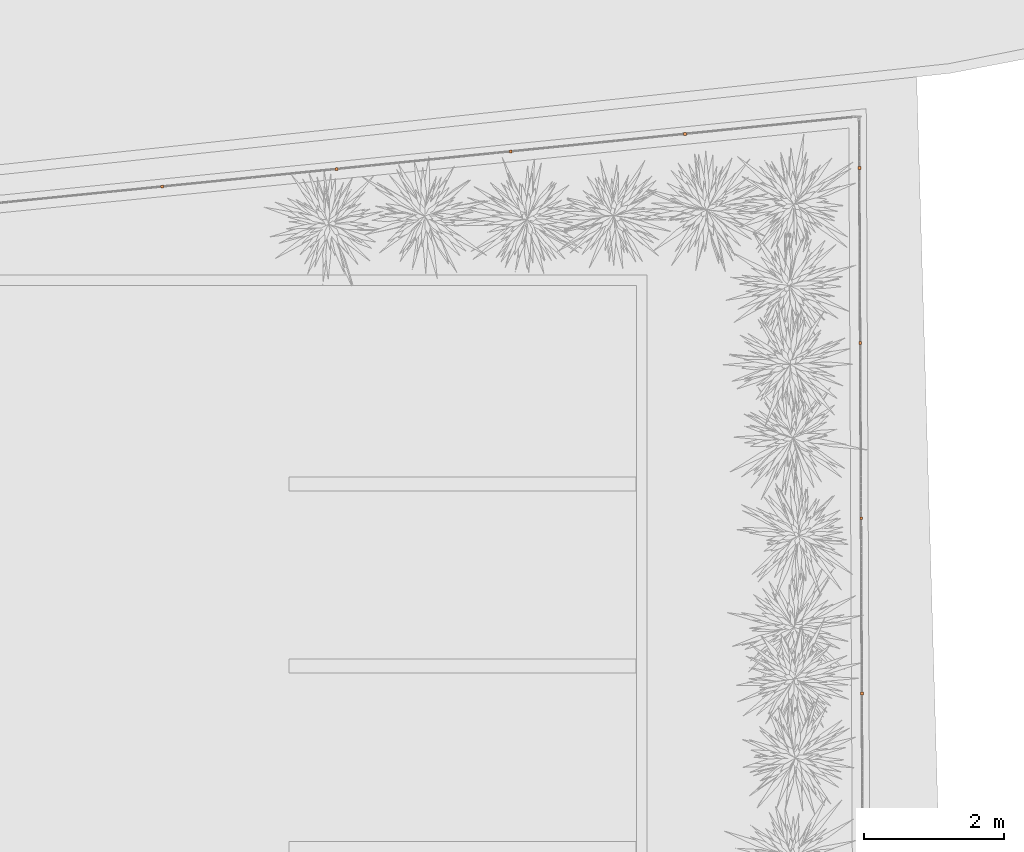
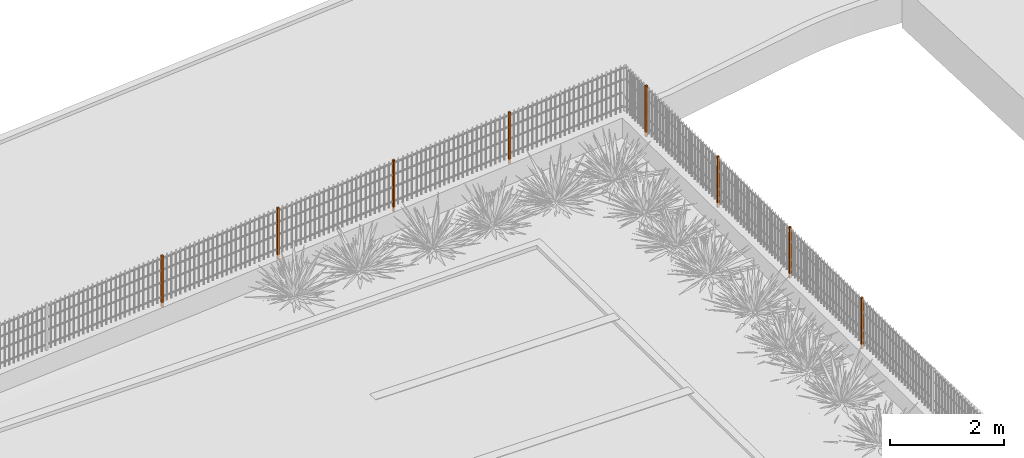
# One storey, part 51 of 1809: 8 proxies, 1 element without a shape of its own.
"""IFC2X3 building model written with IfcOpenShell, lengths in millimetres."""

from ifc_helpers import new_model, entity, si_unit, converted_unit, derived_unit, money_unit, direction, frame, origin_with_axes, place, context, subcontext, project, spatial, faceted_brep, source, transform, mapped, material, type_object, element, aggregate, save


model = new_model("IFC2X3")

# Units and contexts
model_context = context("Model", 3, precision=0.01, world=origin_with_axes(), true_north=direction((0.0, 1.0)))
body_context = subcontext(model_context, "Body", "Model", "MODEL_VIEW")
ifc_project = project(units=[si_unit("LENGTHUNIT", "METRE", prefix="MILLI"), si_unit("AREAUNIT", "SQUARE_METRE"), si_unit("VOLUMEUNIT", "CUBIC_METRE"), converted_unit("PLANEANGLEUNIT", "DEGREE", entity("IfcPlaneAngleMeasure", 0.0174532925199), si_unit("PLANEANGLEUNIT", "RADIAN"), dimensions=[0, 0, 0, 0, 0, 0, 0]), si_unit("SOLIDANGLEUNIT", "STERADIAN"), money_unit("EUR"), converted_unit("TIMEUNIT", "Year", entity("IfcTimeMeasure", 31556926.0), si_unit("TIMEUNIT", "SECOND"), dimensions=[0, 0, 1, 0, 0, 0, 0]), si_unit("MASSUNIT", "GRAM", prefix="KILO"), si_unit("THERMODYNAMICTEMPERATUREUNIT", "DEGREE_CELSIUS"), si_unit("LUMINOUSINTENSITYUNIT", "LUMEN"), si_unit("ENERGYUNIT", "JOULE", prefix="MEGA"), derived_unit("THERMALCONDUCTANCEUNIT", [(si_unit("POWERUNIT", "WATT"), 1), (si_unit("LENGTHUNIT", "METRE"), -1), (si_unit("THERMODYNAMICTEMPERATUREUNIT", "KELVIN"), -1)]), derived_unit("SPECIFICHEATCAPACITYUNIT", [(si_unit("ENERGYUNIT", "JOULE"), 1), (si_unit("MASSUNIT", "GRAM", prefix="KILO"), -1), (si_unit("THERMODYNAMICTEMPERATUREUNIT", "KELVIN"), -1)]), derived_unit("MASSDENSITYUNIT", [(si_unit("MASSUNIT", "GRAM", prefix="KILO"), 1), (si_unit("VOLUMEUNIT", "CUBIC_METRE"), -1)])], contexts=[model_context])

# Site, building, storey
site_placement = place(None, origin_with_axes())
site = spatial("IfcSite", under=ifc_project, at=site_placement, Name="Politse- ja Piirivalveameti ning Päästeameti ühishoone", CompositionType="ELEMENT")
building_placement = place(site_placement, origin_with_axes())
building = spatial("IfcBuilding", under=site, at=building_placement, Name="Politse- ja Piirivalveameti ning Päästeameti ühishoone", CompositionType="ELEMENT")
storey_placement = place(building_placement, origin_with_axes())
storey = spatial("IfcBuildingStorey", under=building, at=storey_placement, Name="Esimene korrus", CompositionType="ELEMENT", Elevation=0.0)

# Proxies
building_element_proxy_type_1 = type_object("IfcBuildingElementProxyType", Name="Railing Type", PredefinedType="NOTDEFINED")
proxy_1_placement = place(storey_placement, frame((88449.2204314, 58319.144353, 0.0), z_axis=(0.0, 0.0, 1.0), x_axis=(1.0, 0.0, 0.0)))
proxy_1 = element("IfcBuildingElementProxy", 1, at=proxy_1_placement, inside=storey, type_object=building_element_proxy_type_1, Name="PIIRDEAED")
ifc_material = material(Name="Teras - Konstruktsioon")
building_element_proxy_type_2 = type_object("IfcBuildingElementProxyType", Name="IfcBuildingElementProxy", PredefinedType="NOTDEFINED")
shared_shape_1 = source(origin_with_axes(), body_context, "Body", "Brep", [
    faceted_brep([(20.0, 20.0, 0.0), (-20.0, 20.0, 0.0), (-20.0, 20.0, 1089.70588235), (20.0, 20.0, 1089.70588235), (20.0, -20.0, 0.0), (-20.0, -20.0, 0.0), (-20.0, -20.0, 1089.70588235), (20.0, -20.0, 1089.70588235)], [[[0, 1, 2, 3]], [[0, 4, 5, 1]], [[1, 5, 6, 2]], [[3, 2, 6, 7]], [[4, 0, 3, 7]], [[5, 4, 7, 6]]]),
])
proxy_2_placement = place(proxy_1_placement, frame((418.091627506, 19961.8619921, 0.0), z_axis=(0.0, 0.0, 1.0), x_axis=(1.0, 0.0, 0.0)))
proxy_2 = element("IfcBuildingElementProxy", 2, at=proxy_2_placement, type_object=building_element_proxy_type_2, material=ifc_material, Name="SISEPOST - 001", context=body_context, shape_type="MappedRepresentation", body=[
    mapped(shared_shape_1, transform((0.0, 0.0, 0.0), x_axis=(0.999988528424, 0.00478988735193, 0.0), y_axis=(-0.00478988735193, 0.999988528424, 0.0), z_axis=(0.0, 0.0, 1.0))),
])
shared_shape_2 = source(origin_with_axes(), body_context, "Body", "Brep", [
    faceted_brep([(20.0, 20.0, 0.0), (-20.0, 20.0, 0.0), (-20.0, 20.0, 1089.70588235), (20.0, 20.0, 1089.70588235), (20.0, -20.0, 0.0), (-20.0, -20.0, 0.0), (-20.0, -20.0, 1089.70588235), (20.0, -20.0, 1089.70588235)], [[[0, 1, 2, 3]], [[0, 4, 5, 1]], [[1, 5, 6, 2]], [[3, 2, 6, 7]], [[4, 0, 3, 7]], [[5, 4, 7, 6]]]),
])
proxy_3_placement = place(proxy_1_placement, frame((430.066345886, 17461.890671, 0.0), z_axis=(0.0, 0.0, 1.0), x_axis=(1.0, 0.0, 0.0)))
proxy_3 = element("IfcBuildingElementProxy", 3, at=proxy_3_placement, type_object=building_element_proxy_type_2, material=ifc_material, Name="SISEPOST - 001", context=body_context, shape_type="MappedRepresentation", body=[
    mapped(shared_shape_2, transform((0.0, 0.0, 0.0), x_axis=(0.999988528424, 0.00478988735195, 0.0), y_axis=(-0.00478988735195, 0.999988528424, 0.0), z_axis=(0.0, 0.0, 1.0))),
])
proxy_4_placement = place(proxy_1_placement, frame((406.116909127, 22461.8333132, 0.0), z_axis=(0.0, 0.0, 1.0), x_axis=(1.0, 0.0, 0.0)))
proxy_4 = element("IfcBuildingElementProxy", 4, at=proxy_4_placement, type_object=building_element_proxy_type_2, material=ifc_material, Name="SISEPOST - 001", context=body_context, shape_type="MappedRepresentation", body=[
    mapped(shared_shape_2, transform((0.0, 0.0, 0.0), x_axis=(0.999988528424, 0.00478988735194, 0.0), y_axis=(-0.00478988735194, 0.999988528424, 0.0), z_axis=(0.0, 0.0, 1.0))),
])
proxy_5_placement = place(proxy_1_placement, frame((394.142190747, 24961.8046342, 0.0), z_axis=(0.0, 0.0, 1.0), x_axis=(1.0, 0.0, 0.0)))
proxy_5 = element("IfcBuildingElementProxy", 5, at=proxy_5_placement, type_object=building_element_proxy_type_2, material=ifc_material, Name="SISEPOST - 001", context=body_context, shape_type="MappedRepresentation", body=[
    mapped(shared_shape_2, transform((0.0, 0.0, 0.0), x_axis=(0.999988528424, 0.00478988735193, 0.0), y_axis=(-0.00478988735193, 0.999988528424, 0.0), z_axis=(0.0, 0.0, 1.0))),
])
shared_shape_3 = source(origin_with_axes(), body_context, "Body", "Brep", [
    faceted_brep([(20.0, 20.0, 0.0), (-20.0, 20.0, 0.0), (-20.0, 20.0, 1100.0), (20.0, 20.0, 1100.0), (20.0, -20.0, 0.0), (-20.0, -20.0, 0.0), (-20.0, -20.0, 1100.0), (20.0, -20.0, 1100.0)], [[[0, 1, 2, 3]], [[0, 4, 5, 1]], [[1, 5, 6, 2]], [[3, 2, 6, 7]], [[4, 0, 3, 7]], [[5, 4, 7, 6]]]),
])
proxy_6_placement = place(proxy_1_placement, frame((-2096.78190336, 25445.782703, 0.0), z_axis=(0.0, 0.0, 1.0), x_axis=(1.0, 0.0, 0.0)))
proxy_6 = element("IfcBuildingElementProxy", 6, at=proxy_6_placement, type_object=building_element_proxy_type_2, material=ifc_material, Name="SISEPOST - 001", context=body_context, shape_type="MappedRepresentation", body=[
    mapped(shared_shape_3, transform((0.0, 0.0, 0.0), x_axis=(-0.100251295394, 0.994962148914, 0.0), y_axis=(-0.994962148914, -0.100251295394, 0.0), z_axis=(0.0, 0.0, 1.0))),
])
proxy_7_placement = place(proxy_1_placement, frame((-4584.18727565, 25195.1544645, 0.0), z_axis=(0.0, 0.0, 1.0), x_axis=(1.0, 0.0, 0.0)))
proxy_7 = element("IfcBuildingElementProxy", 7, at=proxy_7_placement, type_object=building_element_proxy_type_2, material=ifc_material, Name="SISEPOST - 001", context=body_context, shape_type="MappedRepresentation", body=[
    mapped(shared_shape_3, transform((0.0, 0.0, 0.0), x_axis=(-0.100251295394, 0.994962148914, 0.0), y_axis=(-0.994962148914, -0.100251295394, 0.0), z_axis=(0.0, 0.0, 1.0))),
])
proxy_8_placement = place(proxy_1_placement, frame((-7071.59264793, 24944.5262261, 0.0), z_axis=(0.0, 0.0, 1.0), x_axis=(1.0, 0.0, 0.0)))
proxy_8 = element("IfcBuildingElementProxy", 8, at=proxy_8_placement, type_object=building_element_proxy_type_2, material=ifc_material, Name="SISEPOST - 001", context=body_context, shape_type="MappedRepresentation", body=[
    mapped(shared_shape_3, transform((0.0, 0.0, 0.0), x_axis=(-0.100251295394, 0.994962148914, 0.0), y_axis=(-0.994962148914, -0.100251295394, 0.0), z_axis=(0.0, 0.0, 1.0))),
])
proxy_9_placement = place(proxy_1_placement, frame((-9558.99802022, 24693.8979876, 0.0), z_axis=(0.0, 0.0, 1.0), x_axis=(1.0, 0.0, 0.0)))
proxy_9 = element("IfcBuildingElementProxy", 9, at=proxy_9_placement, type_object=building_element_proxy_type_2, material=ifc_material, Name="SISEPOST - 001", context=body_context, shape_type="MappedRepresentation", body=[
    mapped(shared_shape_3, transform((0.0, 0.0, 0.0), x_axis=(-0.100251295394, 0.994962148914, 0.0), y_axis=(-0.994962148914, -0.100251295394, 0.0), z_axis=(0.0, 0.0, 1.0))),
])
aggregate(proxy_1, [proxy_3, proxy_2, proxy_4, proxy_5, proxy_6, proxy_7, proxy_8, proxy_9])

save(model, "model.ifc")
